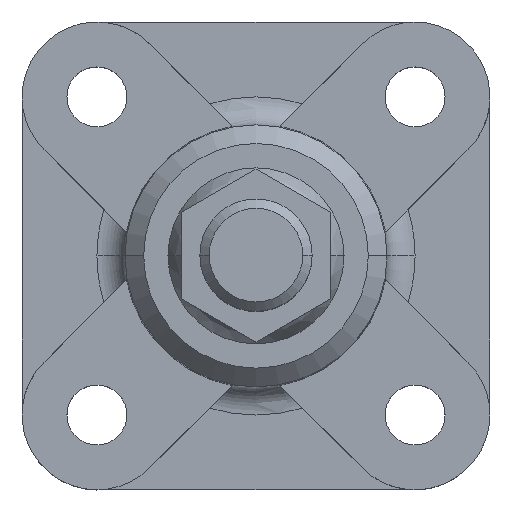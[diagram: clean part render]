
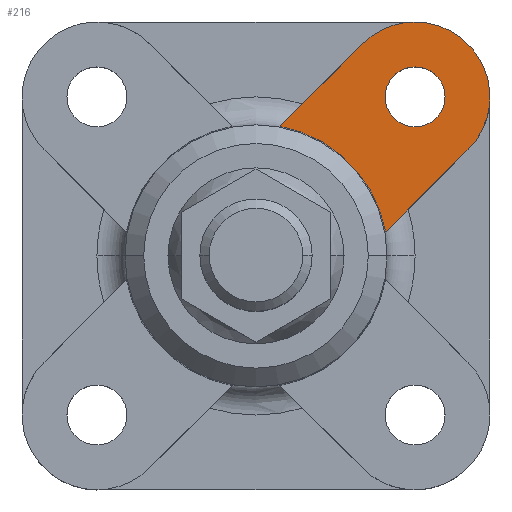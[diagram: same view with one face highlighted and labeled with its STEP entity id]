
A CAD part, top view. The second image highlights one B-rep face of the part: STEP entity #216.
In plain terms, the highlighted planar face has unit normal (0, 0, 1).
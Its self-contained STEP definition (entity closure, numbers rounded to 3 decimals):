
#216=ADVANCED_FACE('',(#474,#475),#476,.F.);
#474=FACE_BOUND('',#784,.T.);
#475=FACE_OUTER_BOUND('',#785,.T.);
#476=PLANE('',#786);
#784=EDGE_LOOP('',(#1337,#1338));
#785=EDGE_LOOP('',(#1339,#1340,#1341,#1342,#1343));
#786=AXIS2_PLACEMENT_3D('',#1344,#1345,#1346);
#1337=ORIENTED_EDGE('',*,*,#1898,.T.);
#1338=ORIENTED_EDGE('',*,*,#1911,.T.);
#1339=ORIENTED_EDGE('',*,*,#1874,.T.);
#1340=ORIENTED_EDGE('',*,*,#1945,.F.);
#1341=ORIENTED_EDGE('',*,*,#2003,.F.);
#1342=ORIENTED_EDGE('',*,*,#1849,.F.);
#1343=ORIENTED_EDGE('',*,*,#1998,.F.);
#1344=CARTESIAN_POINT('',(0.,0.,4.5));
#1345=DIRECTION('',(0.0,-0.0,-1.0));
#1346=DIRECTION('',(0.707,-0.707,0.0));
#1849=EDGE_CURVE('',#2215,#2211,#2217,.T.);
#1874=EDGE_CURVE('',#2260,#2258,#2261,.T.);
#1898=EDGE_CURVE('',#2304,#2301,#2305,.T.);
#1911=EDGE_CURVE('',#2301,#2304,#2322,.T.);
#1945=EDGE_CURVE('',#2368,#2258,#2370,.T.);
#1998=EDGE_CURVE('',#2260,#2215,#2442,.T.);
#2003=EDGE_CURVE('',#2211,#2368,#2448,.T.);
#2211=VERTEX_POINT('',#2709);
#2215=VERTEX_POINT('',#2714);
#2217=CIRCLE('',#2717,4.0);
#2258=VERTEX_POINT('',#2764);
#2260=VERTEX_POINT('',#2785);
#2261=CIRCLE('',#2786,7.048);
#2301=VERTEX_POINT('',#2889);
#2304=VERTEX_POINT('',#2893);
#2305=CIRCLE('',#2894,1.6);
#2322=CIRCLE('',#2912,1.6);
#2368=VERTEX_POINT('',#3035);
#2370=LINE('',#3038,#3039);
#2442=LINE('',#3140,#3141);
#2448=CIRCLE('',#3148,4.0);
#2709=CARTESIAN_POINT('',(8.5,12.5,4.5));
#2714=CARTESIAN_POINT('',(5.672,11.328,4.5));
#2717=AXIS2_PLACEMENT_3D('',#3451,#3452,#3453);
#2764=CARTESIAN_POINT('',(6.931,1.275,4.5));
#2785=CARTESIAN_POINT('',(1.275,6.931,4.5));
#2786=AXIS2_PLACEMENT_3D('',#3499,#3500,#3501);
#2889=CARTESIAN_POINT('',(8.5,10.1,4.5));
#2893=CARTESIAN_POINT('',(8.5,6.9,4.5));
#2894=AXIS2_PLACEMENT_3D('',#3536,#3537,#3538);
#2912=AXIS2_PLACEMENT_3D('',#3564,#3565,#3566);
#3035=CARTESIAN_POINT('',(11.328,5.672,4.5));
#3038=CARTESIAN_POINT('',(11.328,5.672,4.5));
#3039=VECTOR('',#3623,1.0);
#3140=CARTESIAN_POINT('',(-11.328,-5.672,4.5));
#3141=VECTOR('',#3680,1.0);
#3148=AXIS2_PLACEMENT_3D('',#3685,#3686,#3687);
#3451=CARTESIAN_POINT('',(8.5,8.5,4.5));
#3452=DIRECTION('',(0.0,0.0,-1.0));
#3453=DIRECTION('',(-0.707,0.707,0.0));
#3499=CARTESIAN_POINT('',(0.0,0.0,4.5));
#3500=DIRECTION('',(0.0,0.0,-1.0));
#3501=DIRECTION('',(1.0,0.0,0.0));
#3536=CARTESIAN_POINT('',(8.5,8.5,4.5));
#3537=DIRECTION('',(0.0,0.0,-1.0));
#3538=DIRECTION('',(0.0,1.0,0.0));
#3564=CARTESIAN_POINT('',(8.5,8.5,4.5));
#3565=DIRECTION('',(0.0,0.0,-1.0));
#3566=DIRECTION('',(0.0,1.0,0.0));
#3623=DIRECTION('',(-0.707,-0.707,0.0));
#3680=DIRECTION('',(0.707,0.707,0.0));
#3685=CARTESIAN_POINT('',(8.5,8.5,4.5));
#3686=DIRECTION('',(0.0,0.0,-1.0));
#3687=DIRECTION('',(-0.707,0.707,0.0));
